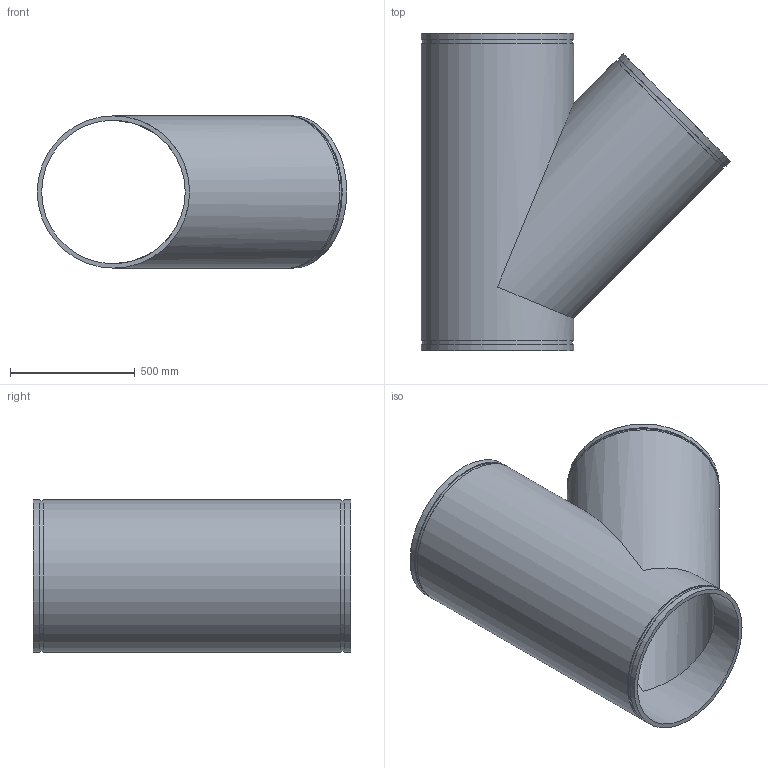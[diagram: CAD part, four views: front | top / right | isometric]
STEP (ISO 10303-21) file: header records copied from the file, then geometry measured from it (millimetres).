
FILE_DESCRIPTION(/* description */ ('VIC 45 DEG FABRICATED LATERAL No 30 SWS (OGS)','CAx-IF Rec.Pracs.---Representation and Presentation of Product Manufacturing Information (PMI)---4.0---2014-10-13'),/* implementation_level */ '2;1');
FILE_NAME(/* name */ 'C:\Users\kkamble\AppData\Roaming\Autodesk\ApplicationPlugins\Back Up\Victaulic_IPS_Lateral 45 Deg_No 30 SWS (OGS)\Victaulic_IPS_Lateral 45 Deg_No 30 SWS (OGS)_24 (600).stp',/* time_stamp */ '2020-09-16T22:21:32+06:00',/* author */ ('cgray'),/* organization */ ('Victaulic'),/* preprocessor_version */ 'ST-DEVELOPER v17.2',/* originating_system */ 'Autodesk Inventor 2019',/* authorisation */ '');
FILE_SCHEMA (('AP242_MANAGED_MODEL_BASED_3D_ENGINEERING_MIM_LF { 1 0 10303 442 1 1 4 }'));
Length unit declared in the file: inch
Products named in the file (1): 30 SWS-24.0
Bounding box: 1238.75 x 1270 x 609.6 mm (x, y, z)
Volume: 56540145.3 mm3; surface area: 6666063.7 mm2
Topology: 1 solids, 1 shells, 19 faces, 45 edges, 34 vertices
Faces by surface type: cylinder 10, plane 9
Full cylindrical faces by diameter (mm): 574.7 x2, 600.862 x3, 609.6 x5
Entity records: 748 total; most frequent: DIRECTION 145, CARTESIAN_POINT 116, ORIENTED_EDGE 90, AXIS2_PLACEMENT_3D 67, EDGE_CURVE 45, VERTEX_POINT 34, EDGE_LOOP 29, CIRCLE 27
